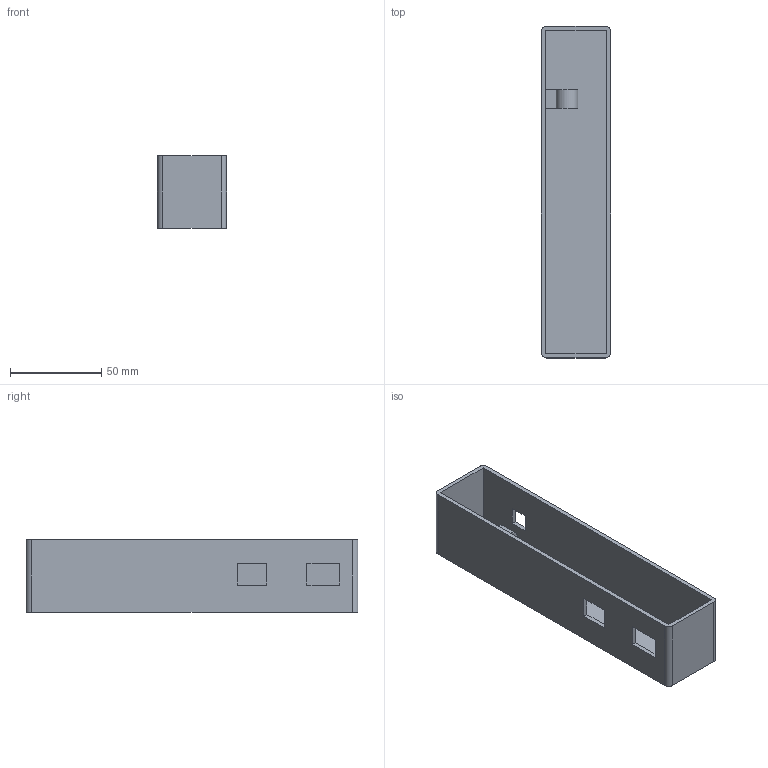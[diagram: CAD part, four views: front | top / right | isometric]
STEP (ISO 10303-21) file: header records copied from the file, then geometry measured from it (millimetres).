
FILE_DESCRIPTION(('FreeCAD Model'),'2;1');
FILE_NAME('Open CASCADE Shape Model','2026-11-06T11:24:16',('FreeCAD'),( 'FreeCAD'),'Open CASCADE STEP processor 7.8','FreeCAD','Unknown');
FILE_SCHEMA(('AUTOMOTIVE_DESIGN { 1 0 10303 214 1 1 1 1 }'));
Length unit declared in the file: millimetre
Products named in the file (1): Open CASCADE STEP translator 7.8 23
Bounding box: 38 x 182 x 40 mm (x, y, z)
Volume: 54718.4 mm3; surface area: 47233.1 mm2
Topology: 1 solids, 1 shells, 33 faces, 89 edges, 60 vertices
Faces by surface type: plane 27, cylinder 6
Full cylindrical faces by diameter (mm): 8.4 x1
Entity records: 1059 total; most frequent: CARTESIAN_POINT 183, ORIENTED_EDGE 178, DIRECTION 171, EDGE_CURVE 89, LINE 75, VECTOR 75, VERTEX_POINT 60, AXIS2_PLACEMENT_3D 48
